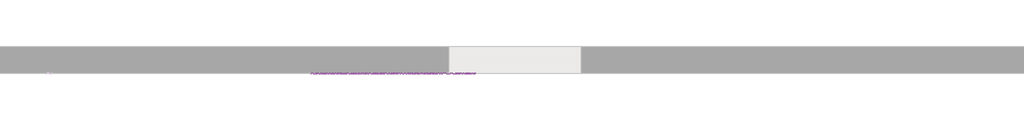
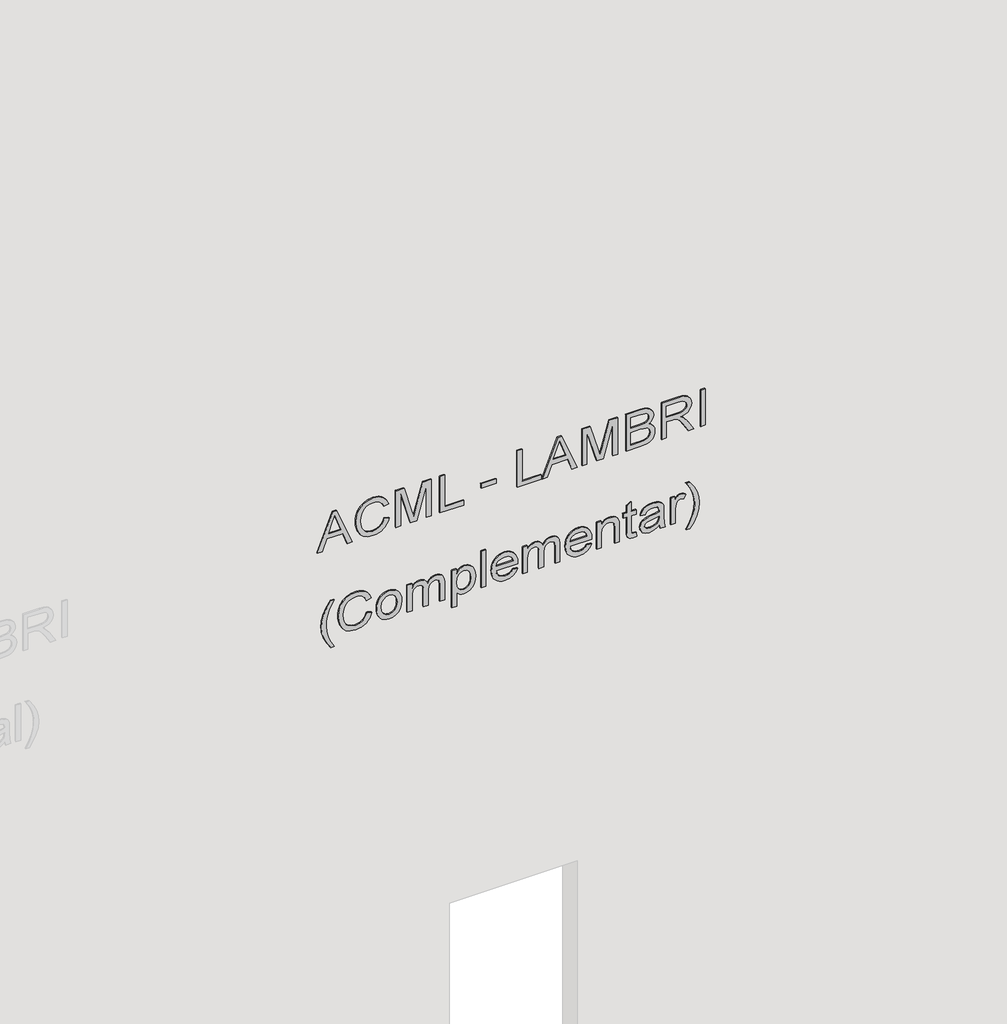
# One storey, part 5 of 11: 1 proxy.
"""IFC4 building model written with IfcOpenShell, lengths in millimetres."""

from ifc_helpers import new_model, si_unit, frame, origin, place, context, project, spatial, polyline, outline, extrude, element, save

model = new_model("IFC4")

# Units and contexts
model_context = context("Model", 3, world=origin())
ifc_project = project(units=[si_unit("LENGTHUNIT", "METRE", prefix="MILLI")], contexts=[model_context])

# Site, building, storey
site = spatial("IfcSite", under=ifc_project)
building = spatial("IfcBuilding", under=site)
storey = spatial("IfcBuildingStorey", under=building, Name="01 - Marelli - Planta Baixa - Painéis Lambri", Elevation=0.0)

# Proxy
placement = place(None, origin())
element("IfcBuildingElementProxy", 1, Name="300mm Arial", ObjectType="300mm Arial", at=placement, inside=storey, context=model_context, shape_type="SweptSolid", body=[
    extrude(outline(polyline([(5965.9244535, 22333.0775803), (5965.9244535, 22372.8824122), (6060.1022443, 22407.316167), (6060.1022443, 22531.4395521), (5965.9244535, 22565.9468833), (5965.9244535, 22605.7517152), (6267.293384, 22485.4543027), (6267.293384, 22453.3749928), (5965.9244535, 22333.0775803)]), holes=[polyline([(6097.7733606, 22421.14853), (6178.3395176, 22450.652666), (6229.6222677, 22469.4146478), (6171.8647944, 22490.5310743), (6097.7733606, 22517.6807655), (6097.7733606, 22421.14853)])]), frame((0.0, 8778.3159498, 0.0), z_axis=(0.0, 1.0, 0.0), x_axis=(0.0, 0.0, 1.0)), (0.0, 0.0, 1.0), 10.0),
    extrude(outline(polyline([(6073.0516905, 22857.8980347), (6040.7884396, 22845.7119436), (6017.5750857, 22825.9290893), (6003.5587816, 22799.7266942), (5998.8866803, 22768.2819806), (6002.3171799, 22741.3070333), (6012.6086787, 22716.3002547), (6029.8347531, 22695.4413456), (6054.0689796, 22680.9100068), (6084.1617268, 22672.3843415), (6118.9633635, 22669.5424531), (6147.3822477, 22671.9428831), (6174.9550032, 22679.1441732), (6199.3455795, 22692.2683634), (6218.2179258, 22712.4374938), (6230.3028494, 22739.0169679), (6234.3311572, 22771.3721894), (6230.6983225, 22799.4415856), (6219.7998184, 22822.2870575), (6200.9550632, 22840.1293343), (6173.4834752, 22853.1891451), (6182.4597959, 22890.8602614), (6220.278065, 22874.2227982), (6235.6003501, 22862.4206839), (6248.5314022, 22848.2963146), (6258.7999084, 22832.1164046), (6266.1345557, 22814.1476684), (6272.0022735, 22772.8437174), (6267.4681279, 22734.9886601), (6253.8656912, 22700.4445407), (6231.526057, 22671.3174838), (6200.7803193, 22649.7136136), (6162.8332915, 22636.331906), (6118.8897871, 22631.8713368), (6077.2271512, 22635.8168712), (6038.3236302, 22647.6534744), (6005.2326447, 22667.0408556), (5981.0076153, 22693.6387238), (5966.1635768, 22728.339193), (5961.215564, 22772.034377), (5962.8503396, 22794.4567846), (5967.7546665, 22815.0765704), (5975.9285445, 22833.8937345), (5987.3719739, 22850.9082767), (6001.9286046, 22865.7845049), (6019.4420868, 22878.1867267), (6039.9124206, 22888.114942), (6063.3396059, 22895.569151), (6073.0516905, 22857.8980347)])), frame((0.0, 8778.3159498, 0.0), z_axis=(0.0, 1.0, 0.0), x_axis=(0.0, 0.0, 1.0)), (0.0, 0.0, 1.0), 10.0),
    extrude(outline(polyline([(5965.9244535, 22947.3669359), (5965.9244535, 22985.0380522), (6229.6222677, 22985.0380522), (5965.9244535, 23060.7481668), (5965.9244535, 23111.8101877), (6229.6222677, 23187.5203023), (5965.9244535, 23187.5203023), (5965.9244535, 23225.1914186), (6267.293384, 23225.1914186), (6267.293384, 23160.3706111), (6058.5571399, 23099.7436583), (6010.5117514, 23086.2791773), (6054.87832, 23073.8447658), (6267.293384, 23012.1877434), (6267.293384, 22947.3669359), (5965.9244535, 22947.3669359)])), frame((0.0, 8778.3159498, 0.0), z_axis=(0.0, 1.0, 0.0), x_axis=(0.0, 0.0, 1.0)), (0.0, 0.0, 1.0), 10.0),
    extrude(outline(polyline([(5965.9244535, 23291.1158722), (5965.9244535, 23479.4714537), (6003.5955698, 23479.4714537), (6003.5955698, 23328.7869885), (6267.293384, 23328.7869885), (6267.293384, 23291.1158722), (5965.9244535, 23291.1158722)])), frame((0.0, 8778.3159498, 0.0), z_axis=(0.0, 1.0, 0.0), x_axis=(0.0, 0.0, 1.0)), (0.0, 0.0, 1.0), 10.0),
    extrude(outline(polyline([(23733.7514888, 8778.3159498), (23616.0292503, 8778.3159498), (23616.0292503, 8788.3159498), (23733.7514888, 8788.3159498), (23733.7514888, 8778.3159498)])), frame((0.0, 0.0, 6055.3933548), z_axis=(0.0, 0.0, 1.0), x_axis=(1.0, 0.0, 0.0)), (0.0, 0.0, 1.0), 37.6711163),
    extrude(outline(polyline([(5965.9244535, 23898.5626226), (5965.9244535, 24086.9182041), (6003.5955698, 24086.9182041), (6003.5955698, 23936.2337389), (6267.293384, 23936.2337389), (6267.293384, 23898.5626226), (5965.9244535, 23898.5626226)])), frame((0.0, 8778.3159498, 0.0), z_axis=(0.0, 1.0, 0.0), x_axis=(0.0, 0.0, 1.0)), (0.0, 0.0, 1.0), 10.0),
    extrude(outline(polyline([(5965.9244535, 24094.2022676), (5965.9244535, 24134.0070995), (6060.1022443, 24168.4408543), (6060.1022443, 24292.5642394), (5965.9244535, 24327.0715706), (5965.9244535, 24366.8764025), (6267.293384, 24246.5789901), (6267.293384, 24214.4996801), (5965.9244535, 24094.2022676)]), holes=[polyline([(6097.7733606, 24182.2732173), (6178.3395176, 24211.7773533), (6229.6222677, 24230.5393351), (6171.8647944, 24251.6557616), (6097.7733606, 24278.8054528), (6097.7733606, 24182.2732173)])]), frame((0.0, 8778.3159498, 0.0), z_axis=(0.0, 1.0, 0.0), x_axis=(0.0, 0.0, 1.0)), (0.0, 0.0, 1.0), 10.0),
    extrude(outline(polyline([(5965.9244535, 24407.1226927), (5965.9244535, 24444.7938091), (6229.6222677, 24444.7938091), (5965.9244535, 24520.5039237), (5965.9244535, 24571.5659446), (6229.6222677, 24647.2760592), (5965.9244535, 24647.2760592), (5965.9244535, 24684.9471755), (6267.293384, 24684.9471755), (6267.293384, 24620.126368), (6058.5571399, 24559.4994151), (6010.5117514, 24546.0349341), (6054.87832, 24533.6005227), (6267.293384, 24471.9435003), (6267.293384, 24407.1226927), (5965.9244535, 24407.1226927)])), frame((0.0, 8778.3159498, 0.0), z_axis=(0.0, 1.0, 0.0), x_axis=(0.0, 0.0, 1.0)), (0.0, 0.0, 1.0), 10.0),
    extrude(outline(polyline([(5965.9244535, 24750.871629), (5965.9244535, 24864.9886239), (5971.1115897, 24913.2915299), (5977.5311305, 24931.3269447), (5986.4154807, 24946.0698157), (5998.6843452, 24958.108754), (6015.2574291, 24968.0323708), (6034.7459778, 24974.6818379), (6055.7612368, 24976.8983269), (6080.9795475, 24973.6517683), (6102.6294029, 24963.9120924), (6119.5887629, 24948.1391519), (6130.7355874, 24926.7927991), (6142.4802201, 24944.662667), (6157.407032, 24957.3637929), (6174.4675596, 24964.9513591), (6192.613339, 24967.4805478), (6212.3318139, 24964.4731125), (6231.1673721, 24955.4508066), (6247.1794359, 24941.1218028), (6258.4274279, 24922.1942742), (6265.076895, 24897.5001953), (6267.293384, 24865.8715407), (6267.293384, 24750.871629), (5965.9244535, 24750.871629)]), holes=[polyline([(6144.862256, 24788.5427453), (6229.6222677, 24788.5427453), (6229.6222677, 24852.1127541), (6225.6859303, 24900.5260247), (6220.084927, 24913.0156184), (6211.1545915, 24922.2310624), (6199.7134615, 24927.9148392), (6186.5800742, 24929.8094315), (6173.0512139, 24927.7768835), (6162.0423452, 24921.6792394), (6153.6822268, 24911.5716816), (6148.0996175, 24897.5093923), (6144.862256, 24857.3366784), (6144.862256, 24788.5427453)]), polyline([(6003.5955698, 24788.5427453), (6107.1911397, 24788.5427453), (6107.1911397, 24862.1191444), (6105.9311438, 24888.9469389), (6102.1511563, 24908.6562168), (6095.262566, 24922.5713532), (6084.6767616, 24932.0167235), (6071.1387042, 24937.4245888), (6055.3933548, 24939.2272106), (6041.8369032, 24937.6913032), (6030.0094971, 24933.0835813), (6013.2708663, 24917.4118083), (6005.0670978, 24893.756996), (6003.5955698, 24865.7979643), (6003.5955698, 24788.5427453)])]), frame((0.0, 8778.3159498, 0.0), z_axis=(0.0, 1.0, 0.0), x_axis=(0.0, 0.0, 1.0)), (0.0, 0.0, 1.0), 10.0),
    extrude(outline(polyline([(5965.9244535, 25028.6961118), (5965.9244535, 25066.3672281), (6097.7733606, 25066.3672281), (6097.7733606, 25111.8374427), (6096.4489854, 25133.6896332), (6089.2752865, 25151.6054864), (6069.7407526, 25171.5079023), (6028.3908163, 25199.834816), (5965.9244535, 25239.0510366), (5965.9244535, 25282.8289941), (6047.5942565, 25232.5763135), (6086.3690188, 25202.0421079), (6102.4822501, 25180.6313758), (6112.4702463, 25217.7414721), (6120.4854753, 25232.1233588), (6130.5148582, 25243.723138), (6155.1261637, 25259.036226), (6184.8142407, 25264.1405887), (6208.6805851, 25261.059577), (6230.3948199, 25251.8165419), (6247.9060028, 25237.4139618), (6259.1631919, 25218.8543151), (6265.260836, 25193.4612604), (6267.293384, 25158.5584561), (6267.293384, 25028.6961118), (5965.9244535, 25028.6961118)]), holes=[polyline([(6135.4444769, 25066.3672281), (6229.6222677, 25066.3672281), (6229.6222677, 25160.1771369), (6226.366512, 25189.9847755), (6216.599245, 25210.540182), (6201.7919947, 25222.4871498), (6183.4162891, 25226.4694724), (6170.1081579, 25224.3817421), (6157.8484904, 25218.1185511), (6147.7133415, 25207.8362493), (6140.7787658, 25193.6911866), (6136.7780491, 25174.9016137), (6135.4444769, 25150.6857814), (6135.4444769, 25066.3672281)])]), frame((0.0, 8778.3159498, 0.0), z_axis=(0.0, 1.0, 0.0), x_axis=(0.0, 0.0, 1.0)), (0.0, 0.0, 1.0), 10.0),
    extrude(outline(polyline([(25372.4450481, 8778.3159498), (25334.7739318, 8778.3159498), (25334.7739318, 8788.3159498), (25372.4450481, 8788.3159498), (25372.4450481, 8778.3159498)])), frame((0.0, 0.0, 5965.9244535), z_axis=(0.0, 0.0, 1.0), x_axis=(1.0, 0.0, 0.0)), (0.0, 0.0, 1.0), 301.3689304),
    extrude(outline(polyline([(5149.3155348, 22438.8068658), (5149.3155348, 22467.060203), (5197.5540614, 22438.2182546), (5245.8109821, 22417.6168628), (5294.0862969, 22405.2560278), (5342.3800058, 22401.1357494), (5380.2534572, 22403.5085883), (5417.9429677, 22410.6271049), (5475.7740173, 22431.8171078), (5535.4444769, 22467.060203), (5535.4444769, 22438.8068658), (5484.934279, 22404.1155936), (5434.2033518, 22379.7985937), (5389.4137189, 22367.5481233), (5342.600735, 22363.4646331), (5289.2210575, 22368.9276808), (5237.68079, 22385.3168237), (5190.2791949, 22409.6154294), (5149.3155348, 22438.8068658)])), frame((0.0, 8778.3159498, 0.0), z_axis=(0.0, 1.0, 0.0), x_axis=(0.0, 0.0, 1.0)), (0.0, 0.0, 1.0), 10.0),
    extrude(outline(polyline([(5341.2027835, 22721.340238), (5308.9395325, 22709.154147), (5285.7261786, 22689.3712927), (5271.7098746, 22663.1688976), (5267.0377732, 22631.724184), (5270.4682728, 22604.7492367), (5280.7597717, 22579.7424581), (5297.9858461, 22558.883549), (5322.2200725, 22544.3522102), (5352.3128197, 22535.8265449), (5387.1144565, 22532.9846565), (5415.5333406, 22535.3850865), (5443.1060961, 22542.5863766), (5467.4966724, 22555.7105668), (5486.3690188, 22575.8796972), (5498.4539423, 22602.4591713), (5502.4822501, 22634.8143928), (5498.8494154, 22662.883789), (5487.9509113, 22685.7292609), (5469.1061561, 22703.5715377), (5441.6345681, 22716.6313485), (5450.6108888, 22754.3024648), (5488.4291579, 22737.6650016), (5503.751443, 22725.8628873), (5516.6824952, 22711.738518), (5526.9510013, 22695.558608), (5534.2856486, 22677.5898718), (5540.1533665, 22636.2859208), (5535.6192209, 22598.4308635), (5522.0167841, 22563.8867441), (5499.6771499, 22534.7596871), (5468.9314122, 22513.155817), (5430.9843844, 22499.7741094), (5387.0408801, 22495.3135402), (5345.3782441, 22499.2590746), (5306.4747231, 22511.0956778), (5273.3837376, 22530.483059), (5249.1587083, 22557.0809272), (5234.3146698, 22591.7813964), (5229.3666569, 22635.4765804), (5231.0014325, 22657.898988), (5235.9057594, 22678.5187738), (5244.0796375, 22697.3359379), (5255.5230668, 22714.3504801), (5270.0796975, 22729.2267083), (5287.5931797, 22741.6289301), (5308.0635135, 22751.5571454), (5331.4906988, 22759.0113544), (5341.2027835, 22721.340238)])), frame((0.0, 8778.3159498, 0.0), z_axis=(0.0, 1.0, 0.0), x_axis=(0.0, 0.0, 1.0)), (0.0, 0.0, 1.0), 10.0),
    extrude(outline(polyline([(5344.7344506, 22796.6824707), (5318.4124939, 22798.3908227), (5295.3646869, 22803.5158787), (5275.5910296, 22812.0576388), (5259.0915221, 22824.0161029), (5246.0868936, 22838.742879), (5236.7978732, 22855.5895751), (5231.224461, 22874.5561913), (5229.3666569, 22895.6427274), (5232.7419742, 22922.2313986), (5242.8679261, 22946.6679601), (5259.1007192, 22967.2417607), (5280.7965599, 22982.242149), (5309.767267, 22991.4024107), (5347.8246594, 22994.4558313), (5372.7049786, 22992.7290852), (5394.7388108, 22987.5488468), (5413.9261561, 22978.9151162), (5430.2670145, 22966.8278934), (5443.3199275, 22952.0183439), (5452.6434368, 22935.217633), (5458.2375424, 22916.4257608), (5460.1022443, 22895.6427274), (5458.5709355, 22876.8163663), (5453.9770091, 22859.4799272), (5446.3204651, 22843.6334103), (5435.6013034, 22829.2768154), (5418.830483, 22815.0167896), (5398.095734, 22804.8310569), (5373.3970566, 22798.7196172), (5344.7344506, 22796.6824707)]), holes=[polyline([(5344.808027, 22834.353587), (5378.8830968, 22838.7129886), (5403.1173232, 22851.7911935), (5417.6026768, 22871.4728803), (5422.431128, 22895.6427274), (5417.5842827, 22919.5642541), (5403.0437468, 22939.2367438), (5379.0854319, 22952.3977222), (5345.9852494, 22956.784715), (5311.1468245, 22952.4253133), (5286.535519, 22939.3471084), (5271.9122097, 22919.7022098), (5267.0377732, 22895.6427274), (5271.8846185, 22871.4728803), (5286.4251544, 22851.7911935), (5310.7145631, 22838.7129886), (5344.808027, 22834.353587)])]), frame((0.0, 8778.3159498, 0.0), z_axis=(0.0, 1.0, 0.0), x_axis=(0.0, 0.0, 1.0)), (0.0, 0.0, 1.0), 10.0),
    extrude(outline(polyline([(5234.0755465, 23036.8358371), (5234.0755465, 23074.5069534), (5345.6909438, 23074.5069534), (5371.6082304, 23075.9416932), (5390.6461236, 23080.2459125), (5404.368122, 23087.7507052), (5414.3377241, 23098.7871651), (5420.407777, 23112.1596756), (5422.431128, 23126.6726203), (5419.3961015, 23143.751542), (5410.2910222, 23155.2570514), (5395.0974958, 23161.7961538), (5373.7971282, 23163.9758546), (5234.0755465, 23163.9758546), (5234.0755465, 23201.646971), (5359.008272, 23201.646971), (5387.7214617, 23205.334988), (5407.3479662, 23216.399039), (5418.6603375, 23233.0365022), (5422.431128, 23253.4447559), (5420.9596, 23265.0054476), (5416.5450161, 23274.9658526), (5409.7300021, 23282.7097686), (5401.0571841, 23287.6209932), (5369.6032735, 23291.1158722), (5234.0755465, 23291.1158722), (5234.0755465, 23328.7869885), (5385.7900813, 23328.7869885), (5418.7615051, 23324.4735721), (5441.8920855, 23311.5333229), (5455.5497046, 23290.5916403), (5460.1022443, 23262.2739238), (5457.366122, 23242.7485869), (5449.1577549, 23225.1546304), (5435.4771432, 23209.4920545), (5416.3242869, 23195.760859), (5434.7643719, 23187.5570905), (5448.5875379, 23175.0123145), (5457.2235677, 23158.2185014), (5460.1022443, 23137.2676218), (5457.27875, 23117.7146938), (5448.808267, 23100.4058459), (5435.702471, 23085.8377189), (5418.9730372, 23074.5069534), (5455.3933548, 23074.5069534), (5455.3933548, 23036.8358371), (5234.0755465, 23036.8358371)])), frame((0.0, 8778.3159498, 0.0), z_axis=(0.0, 1.0, 0.0), x_axis=(0.0, 0.0, 1.0)), (0.0, 0.0, 1.0), 10.0),
    extrude(outline(polyline([(5149.3155348, 23385.2936629), (5149.3155348, 23422.9647792), (5263.5061061, 23422.9647792), (5249.9956398, 23433.605766), (5239.0419534, 23446.8403207), (5231.785481, 23462.3005616), (5229.3666569, 23479.6186065), (5232.9810975, 23504.0367739), (5243.8244193, 23527.2593249), (5261.4459669, 23547.198529), (5285.3950848, 23561.766656), (5314.2094421, 23570.6785974), (5346.4267078, 23573.6492445), (5376.7217901, 23571.0188882), (5404.4784866, 23563.1278194), (5427.9861461, 23550.0680086), (5445.5341173, 23531.9314262), (5456.4602125, 23509.6561714), (5460.1022443, 23484.1803432), (5457.4994792, 23465.0504795), (5449.6911838, 23449.0108245), (5436.6773583, 23435.2520379), (5418.4580024, 23422.9647792), (5455.3933548, 23422.9647792), (5455.3933548, 23385.2936629), (5149.3155348, 23385.2936629)]), holes=[polyline([(5342.968617, 23422.9647792), (5377.1356573, 23427.3149838), (5402.0872537, 23440.3655976), (5417.3451594, 23459.0632), (5422.431128, 23480.3543705), (5417.6486621, 23501.5627675), (5403.3012642, 23519.5705912), (5379.3521464, 23531.8762439), (5345.7645202, 23535.9781282), (5310.7237602, 23531.7750764), (5286.2412134, 23519.165921), (5271.8386333, 23500.6706537), (5267.0377732, 23478.8092661), (5271.6730864, 23457.2973664), (5285.5790258, 23439.2619516), (5309.1970499, 23427.0390723), (5342.968617, 23422.9647792)])]), frame((0.0, 8778.3159498, 0.0), z_axis=(0.0, 1.0, 0.0), x_axis=(0.0, 0.0, 1.0)), (0.0, 0.0, 1.0), 10.0),
    extrude(outline(polyline([(23653.7003666, 8778.3159498), (23616.0292503, 8778.3159498), (23616.0292503, 8788.3159498), (23653.7003666, 8788.3159498), (23653.7003666, 8778.3159498)])), frame((0.0, 0.0, 5234.0755465), z_axis=(0.0, 0.0, 1.0), x_axis=(1.0, 0.0, 0.0)), (0.0, 0.0, 1.0), 301.3689304),
    extrude(outline(polyline([(5300.0, 23865.1589375), (5285.1191733, 23854.6007242), (5274.9104479, 23840.8787258), (5269.0059419, 23823.9929422), (5267.0377732, 23803.9433735), (5271.2868103, 23777.2811259), (5284.0339214, 23755.4197383), (5304.7640718, 23740.2721971), (5332.9622268, 23733.7514888), (5332.9622268, 23903.050783), (5343.1157698, 23903.2715122), (5369.3687487, 23901.4849852), (5392.5039277, 23896.1254044), (5412.5213067, 23887.1927697), (5429.4208859, 23874.6870811), (5442.8439802, 23859.3670953), (5452.4319047, 23841.9915688), (5458.1846594, 23822.5605017), (5460.1022443, 23801.0738939), (5458.1800609, 23778.8722155), (5452.4135106, 23758.8410408), (5442.8025935, 23740.98037), (5429.3473095, 23725.2902029), (5412.4109422, 23712.5109021), (5392.3567749, 23703.3828301), (5369.1848077, 23697.9059869), (5342.8950406, 23696.0803725), (5317.467497, 23697.8875928), (5295.0427901, 23703.3092537), (5275.62092, 23712.3453552), (5259.2018867, 23724.9958973), (5246.1489737, 23740.7274511), (5236.8254644, 23759.0065877), (5231.2313588, 23779.8333072), (5229.3666569, 23803.2076095), (5233.6892704, 23838.8645718), (5246.6571107, 23867.5501704), (5267.4608375, 23888.7861586), (5295.2911105, 23902.0942898), (5300.0, 23865.1589375)]), holes=[polyline([(5370.6333431, 23733.7514888), (5391.8693312, 23739.9411033), (5408.3412476, 23754.5368215), (5418.9086579, 23775.5336864), (5422.431128, 23800.9267411), (5418.0165441, 23828.5546789), (5404.7727922, 23850.517234), (5390.535759, 23860.5052302), (5370.6333431, 23865.6003958), (5370.6333431, 23733.7514888)])]), frame((0.0, 8778.3159498, 0.0), z_axis=(0.0, 1.0, 0.0), x_axis=(0.0, 0.0, 1.0)), (0.0, 0.0, 1.0), 10.0),
    extrude(outline(polyline([(5234.0755465, 23940.9426285), (5234.0755465, 23978.6137448), (5345.6909438, 23978.6137448), (5371.6082304, 23980.0484845), (5390.6461236, 23984.3527039), (5404.368122, 23991.8574966), (5414.3377241, 24002.8939564), (5420.407777, 24016.266467), (5422.431128, 24030.7794117), (5419.3961015, 24047.8583333), (5410.2910222, 24059.3638427), (5395.0974958, 24065.9029452), (5373.7971282, 24068.082646), (5234.0755465, 24068.082646), (5234.0755465, 24105.7537623), (5359.008272, 24105.7537623), (5387.7214617, 24109.4417793), (5407.3479662, 24120.5058303), (5418.6603375, 24137.1432935), (5422.431128, 24157.5515472), (5420.9596, 24169.1122389), (5416.5450161, 24179.0726439), (5409.7300021, 24186.8165599), (5401.0571841, 24191.7277846), (5369.6032735, 24195.2226635), (5234.0755465, 24195.2226635), (5234.0755465, 24232.8937798), (5385.7900813, 24232.8937798), (5418.7615051, 24228.5803634), (5441.8920855, 24215.6401143), (5455.5497046, 24194.6984317), (5460.1022443, 24166.3807151), (5457.366122, 24146.8553782), (5449.1577549, 24129.2614218), (5435.4771432, 24113.5988458), (5416.3242869, 24099.8676504), (5434.7643719, 24091.6638819), (5448.5875379, 24079.1191058), (5457.2235677, 24062.3252928), (5460.1022443, 24041.3744131), (5457.27875, 24021.8214851), (5448.808267, 24004.5126372), (5435.702471, 23989.9445102), (5418.9730372, 23978.6137448), (5455.3933548, 23978.6137448), (5455.3933548, 23940.9426285), (5234.0755465, 23940.9426285)])), frame((0.0, 8778.3159498, 0.0), z_axis=(0.0, 1.0, 0.0), x_axis=(0.0, 0.0, 1.0)), (0.0, 0.0, 1.0), 10.0),
    extrude(outline(polyline([(5300.0, 24444.3523507), (5285.1191733, 24433.7941374), (5274.9104479, 24420.072139), (5269.0059419, 24403.1863554), (5267.0377732, 24383.1367867), (5271.2868103, 24356.4745391), (5284.0339214, 24334.6131515), (5304.7640718, 24319.4656103), (5332.9622268, 24312.944902), (5332.9622268, 24482.2441962), (5343.1157698, 24482.4649254), (5369.3687487, 24480.6783984), (5392.5039277, 24475.3188176), (5412.5213067, 24466.3861829), (5429.4208859, 24453.8804943), (5442.8439802, 24438.5605085), (5452.4319047, 24421.184982), (5458.1846594, 24401.7539149), (5460.1022443, 24380.2673071), (5458.1800609, 24358.0656287), (5452.4135106, 24338.0344541), (5442.8025935, 24320.1737832), (5429.3473095, 24304.4836161), (5412.4109422, 24291.7043153), (5392.3567749, 24282.5762433), (5369.1848077, 24277.0994001), (5342.8950406, 24275.2737857), (5317.467497, 24277.081006), (5295.0427901, 24282.5026669), (5275.62092, 24291.5387684), (5259.2018867, 24304.1893105), (5246.1489737, 24319.9208643), (5236.8254644, 24338.2000009), (5231.2313588, 24359.0267204), (5229.3666569, 24382.4010227), (5233.6892704, 24418.0579851), (5246.6571107, 24446.7435836), (5267.4608375, 24467.9795718), (5295.2911105, 24481.287703), (5300.0, 24444.3523507)]), holes=[polyline([(5370.6333431, 24312.944902), (5391.8693312, 24319.1345165), (5408.3412476, 24333.7302347), (5418.9086579, 24354.7270996), (5422.431128, 24380.1201543), (5418.0165441, 24407.7480921), (5404.7727922, 24429.7106472), (5390.535759, 24439.6986434), (5370.6333431, 24444.7938091), (5370.6333431, 24312.944902)])]), frame((0.0, 8778.3159498, 0.0), z_axis=(0.0, 1.0, 0.0), x_axis=(0.0, 0.0, 1.0)), (0.0, 0.0, 1.0), 10.0),
    extrude(outline(polyline([(5234.0755465, 24520.1360417), (5234.0755465, 24557.807158), (5351.5034793, 24557.807158), (5386.2131456, 24562.1021803), (5398.5877762, 24567.4709581), (5407.6422718, 24574.9872471), (5418.7339139, 24593.7952141), (5422.431128, 24615.8589368), (5420.7848561, 24629.7556792), (5415.8460403, 24641.7210411), (5408.1481095, 24651.0560467), (5398.2244927, 24657.0617203), (5364.8943839, 24661.4027278), (5234.0755465, 24661.4027278), (5234.0755465, 24699.0738441), (5369.9711555, 24699.0738441), (5406.391473, 24697.0872813), (5434.0929872, 24685.7933041), (5444.6328064, 24675.6949433), (5452.9285454, 24661.5130924), (5458.3088196, 24644.5077472), (5460.1022443, 24625.9389035), (5457.8765582, 24604.9604327), (5451.1995, 24586.6123182), (5440.0710697, 24570.8945599), (5424.4912672, 24557.807158), (5455.3933548, 24557.807158), (5455.3933548, 24520.1360417), (5234.0755465, 24520.1360417)])), frame((0.0, 8778.3159498, 0.0), z_axis=(0.0, 1.0, 0.0), x_axis=(0.0, 0.0, 1.0)), (0.0, 0.0, 1.0), 10.0),
    extrude(outline(polyline([(5265.4926689, 24830.9227512), (5267.0377732, 24814.5152142), (5269.576159, 24801.6761326), (5276.4555523, 24795.2381977), (5295.8797217, 24793.2516349), (5417.7222385, 24793.2516349), (5417.7222385, 24830.9227512), (5455.3933548, 24830.9227512), (5455.3933548, 24793.2516349), (5531.3241986, 24793.2516349), (5509.1777025, 24755.5805186), (5455.3933548, 24755.5805186), (5455.3933548, 24727.3271813), (5417.7222385, 24727.3271813), (5417.7222385, 24755.5805186), (5294.7760757, 24755.5805186), (5267.7919313, 24756.7209528), (5252.0281878, 24760.1422553), (5242.849532, 24766.359461), (5235.6206508, 24775.8876047), (5230.9301554, 24789.3704798), (5229.3666569, 24807.4518799), (5232.9719005, 24835.6316407), (5265.4926689, 24830.9227512)])), frame((0.0, 8778.3159498, 0.0), z_axis=(0.0, 1.0, 0.0), x_axis=(0.0, 0.0, 1.0)), (0.0, 0.0, 1.0), 10.0),
    extrude(outline(polyline([(5262.3288837, 25009.8605536), (5234.0755465, 25019.2783327), (5234.0755465, 25056.949449), (5265.7501862, 25049.4446563), (5331.1963932, 25047.5316699), (5378.0645594, 25047.5316699), (5411.0267861, 25045.69226), (5425.1442577, 25041.1489173), (5436.5945848, 25034.1407653), (5445.856014, 25023.573355), (5453.406792, 25008.3522375), (5458.4283812, 24988.164713), (5460.1022443, 24962.6980819), (5458.207652, 24936.1461989), (5452.5238752, 24912.9972243), (5443.3452194, 24894.0696957), (5430.9659903, 24880.1821503), (5414.7791825, 24870.4240804), (5394.1777908, 24863.884978), (5389.4689012, 24901.5560943), (5405.1314772, 24909.0424929), (5415.1838527, 24919.7294648), (5420.6193092, 24935.4012378), (5422.431128, 24957.8420395), (5419.7088012, 24982.085463), (5411.5418209, 24999.4862814), (5400.5421493, 25007.2669856), (5383.7299421, 25009.8605536), (5375.3422326, 25009.6398244), (5368.3524747, 24982.821227), (5362.3927864, 24944.3039821), (5356.7274037, 24911.7096373), (5344.3665686, 24885.3324983), (5334.8752131, 24874.7282998), (5322.7351073, 24866.3865755), (5308.5532564, 24860.9787102), (5292.9366657, 24859.1760884), (5267.6079903, 24863.9493573), (5247.2457219, 24878.269164), (5233.8364232, 24901.4917149), (5229.3666569, 24932.9732167), (5231.224461, 24953.8413228), (5236.7978732, 24973.3298715), (5246.896234, 24991.861927), (5262.3288837, 25009.8605536)]), holes=[polyline([(5337.6711163, 25009.8605536), (5327.0025384, 25009.6398244), (5310.0799667, 25008.1499024), (5297.8662844, 25003.6801361), (5286.0112871, 24993.6001695), (5276.0508821, 24979.1056188), (5269.2910505, 24961.2265539), (5267.0377732, 24940.9930441), (5269.0795183, 24921.9091656), (5275.2047535, 24908.0676056), (5284.3834093, 24899.6523049), (5295.5854161, 24896.8472047), (5310.0799667, 24901.9975527), (5320.0127805, 24916.6760443), (5326.1196217, 24949.086448), (5337.6711163, 25009.8605536)])]), frame((0.0, 8778.3159498, 0.0), z_axis=(0.0, 1.0, 0.0), x_axis=(0.0, 0.0, 1.0)), (0.0, 0.0, 1.0), 10.0),
    extrude(outline(polyline([(5234.0755465, 25099.3294549), (5234.0755465, 25137.0005712), (5350.3998333, 25137.0005712), (5373.3556698, 25138.5272815), (5394.39852, 25143.1074123), (5406.1339556, 25148.5612629), (5414.9999117, 25156.6822579), (5420.5733239, 25166.7346334), (5422.431128, 25177.9826254), (5420.4997475, 25191.2263773), (5414.7056061, 25204.4701291), (5448.4771733, 25217.0516933), (5457.1959765, 25197.995406), (5460.1022443, 25179.2334242), (5458.2812284, 25166.9461656), (5452.8181808, 25155.6889765), (5441.6345681, 25144.4685757), (5422.6518572, 25132.2916816), (5455.3933548, 25132.2916816), (5455.3933548, 25099.3294549), (5234.0755465, 25099.3294549)])), frame((0.0, 8778.3159498, 0.0), z_axis=(0.0, 1.0, 0.0), x_axis=(0.0, 0.0, 1.0)), (0.0, 0.0, 1.0), 10.0),
    extrude(outline(polyline([(5149.3155348, 25250.0139201), (5190.2791949, 25279.0674007), (5237.68079, 25303.3935976), (5289.2210575, 25319.8655139), (5342.600735, 25325.3561527), (5389.4137189, 25321.2726626), (5434.2033518, 25309.0221921), (5484.934279, 25284.7051922), (5535.4444769, 25250.0139201), (5535.4444769, 25221.7605829), (5475.1854061, 25257.2244072), (5446.8400984, 25269.1989661), (5417.2807801, 25278.1936809), (5379.9775458, 25285.3121975), (5342.3800058, 25287.6850364), (5294.0862969, 25283.5647581), (5245.8109821, 25271.203923), (5197.5540614, 25250.6025313), (5149.3155348, 25221.7605829), (5149.3155348, 25250.0139201)])), frame((0.0, 8778.3159498, 0.0), z_axis=(0.0, 1.0, 0.0), x_axis=(0.0, 0.0, 1.0)), (0.0, 0.0, 1.0), 10.0),
])

save(model, "model.ifc")
